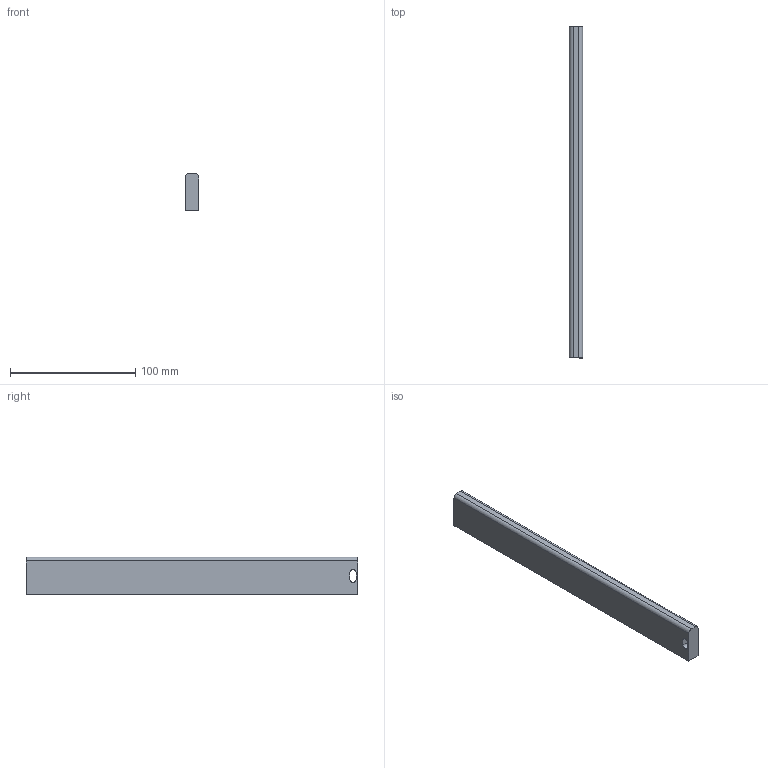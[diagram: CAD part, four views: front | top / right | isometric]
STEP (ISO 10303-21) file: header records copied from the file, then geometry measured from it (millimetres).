
FILE_DESCRIPTION (( 'STEP AP214' ), '1' );
FILE_NAME ('_Seitenreling_S610000200_RL265.step', '2010-09-06T14:51:16', ( 'grass' ), ( '' ), 'SwSTEP 2.0', 'SolidWorks 2010', '' );
FILE_SCHEMA (( 'AUTOMOTIVE_DESIGN' ));
Length unit declared in the file: millimetre
Products named in the file (1): _Seitenreling_S610000200_RL265
Bounding box: 10.5 x 265 x 30 mm (x, y, z)
Volume: 81982.7 mm3; surface area: 21585.5 mm2
Topology: 1 solids, 1 shells, 12 faces, 30 edges, 20 vertices
Faces by surface type: plane 8, cylinder 4
Entity records: 400 total; most frequent: DIRECTION 64, CARTESIAN_POINT 63, ORIENTED_EDGE 60, EDGE_CURVE 30, LINE 22, VECTOR 22, AXIS2_PLACEMENT_3D 21, VERTEX_POINT 20
